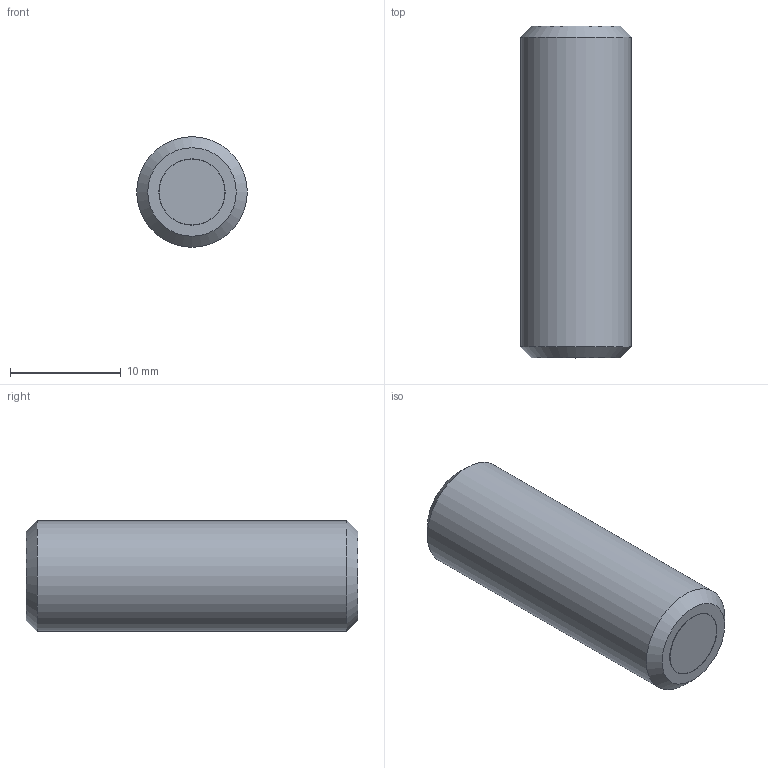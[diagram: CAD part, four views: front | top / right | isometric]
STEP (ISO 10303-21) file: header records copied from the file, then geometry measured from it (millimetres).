
FILE_DESCRIPTION(/* description */ ('STEP AP214'),/* implementation_level */ '2;1');
FILE_NAME(/* name */ 'Grub screw with retaining magnet GN 913.6-M10-30-ND',/* time_stamp */ '2023-10-03T11:26:58+02:00',/* author */ ('License CC BY-ND 4.0'),/* organization */ ('CADENAS'),/* preprocessor_version */ 'ST-DEVELOPER v19.3',/* originating_system */ 'PARTsolutions',/* authorisation */ ' ');
FILE_SCHEMA (('AUTOMOTIVE_DESIGN {1 0 10303 214 3 1 1}'));
Length unit declared in the file: millimetre
Products named in the file (1): Grub screw with retaining magnet GN 913.6-M10-30-ND
Bounding box: 10 x 30 x 10 mm (x, y, z)
Volume: 2213.9 mm3; surface area: 1146.7 mm2
Topology: 1 solids, 1 shells, 22 faces, 45 edges, 27 vertices
Faces by surface type: plane 16, cone 3, cylinder 3
Full cylindrical faces by diameter (mm): 5.96 x1, 6 x1, 10 x1
Entity records: 566 total; most frequent: DIRECTION 98, CARTESIAN_POINT 88, ORIENTED_EDGE 76, EDGE_CURVE 38, AXIS2_PLACEMENT_3D 37, FACE_BOUND 31, EDGE_LOOP 30, VERTEX_POINT 27
